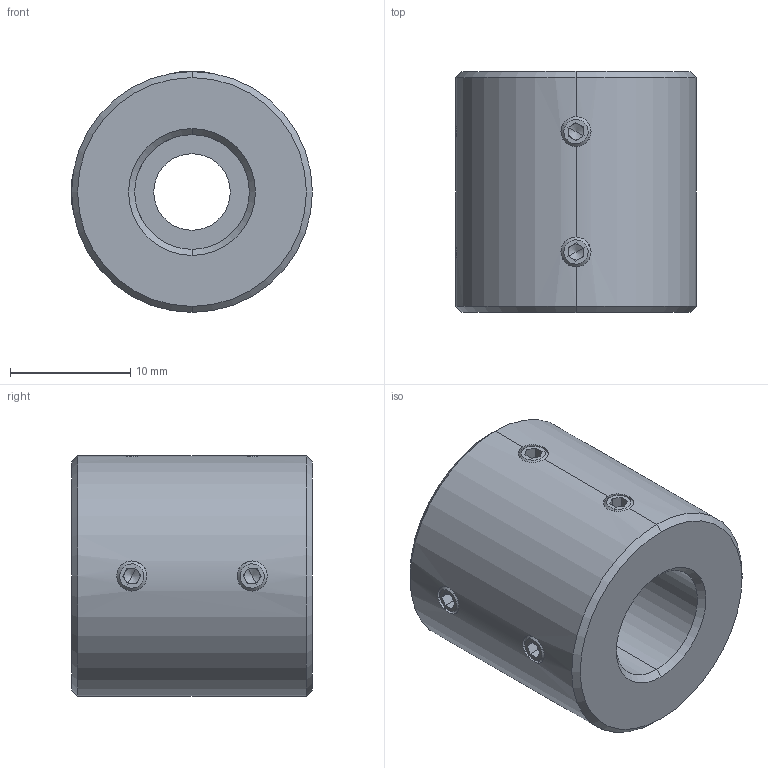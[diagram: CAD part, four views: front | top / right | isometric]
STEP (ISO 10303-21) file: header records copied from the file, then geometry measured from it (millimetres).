
FILE_DESCRIPTION (( 'STEP AP214' ), '1' );
FILE_NAME ('LL-D-D20L20-6.35-9.525.STEP', '2022-07-23T06:34:35', ( '' ), ( '' ), 'SwSTEP 2.0', 'SolidWorks 2022', '' );
FILE_SCHEMA (( 'AUTOMOTIVE_DESIGN' ));
Length unit declared in the file: millimetre
Products named in the file (1): LL-D-D20L20-6.35-9.525
Bounding box: 20 x 20 x 20 mm (x, y, z)
Volume: 5179.5 mm3; surface area: 2388.3 mm2
Topology: 1 solids, 1 shells, 113 faces, 286 edges, 176 vertices
Faces by surface type: plane 59, cone 32, cylinder 22
Entity records: 3634 total; most frequent: CARTESIAN_POINT 884, DIRECTION 582, ORIENTED_EDGE 556, EDGE_CURVE 278, AXIS2_PLACEMENT_3D 214, VERTEX_POINT 176, LINE 154, VECTOR 154
